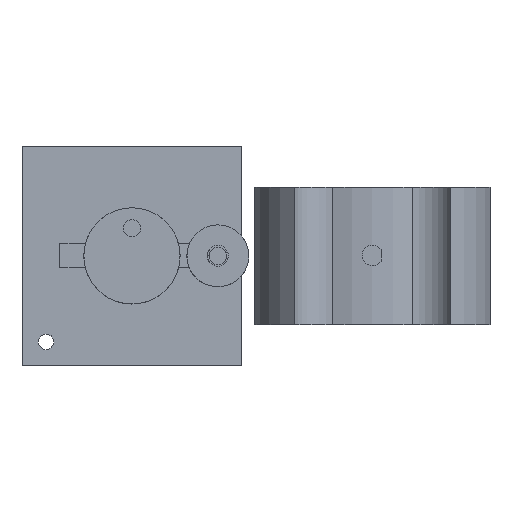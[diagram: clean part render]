
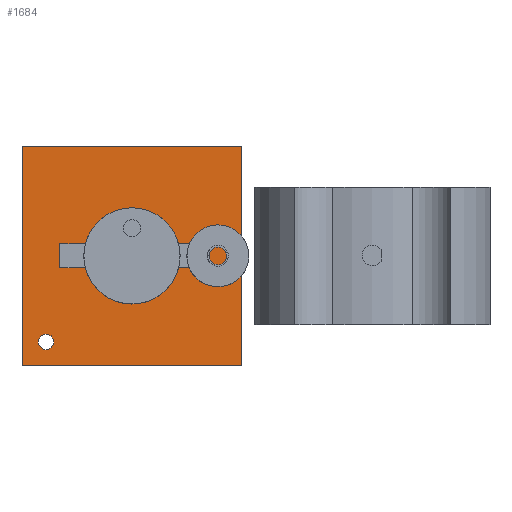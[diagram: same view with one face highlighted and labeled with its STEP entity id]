
A CAD part, top view. The second image highlights one B-rep face of the part: STEP entity #1684.
In plain terms, the highlighted planar face has unit normal (0, 0, 1).
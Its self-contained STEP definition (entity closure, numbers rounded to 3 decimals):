
#1495 = VERTEX_POINT('',#1496);
#1496 = CARTESIAN_POINT('',(-32.,-32.,3.5));
#1503 = PLANE('',#1504);
#1504 = AXIS2_PLACEMENT_3D('',#1505,#1506,#1507);
#1505 = CARTESIAN_POINT('',(-32.,-32.,-3.5));
#1506 = DIRECTION('',(1.,0.,0.));
#1507 = DIRECTION('',(0.,0.,1.));
#1515 = PLANE('',#1516);
#1516 = AXIS2_PLACEMENT_3D('',#1517,#1518,#1519);
#1517 = CARTESIAN_POINT('',(-32.,-32.,-3.5));
#1518 = DIRECTION('',(0.,1.,0.));
#1519 = DIRECTION('',(0.,0.,1.));
#1556 = VERTEX_POINT('',#1557);
#1557 = CARTESIAN_POINT('',(-32.,32.,3.5));
#1571 = PLANE('',#1572);
#1572 = AXIS2_PLACEMENT_3D('',#1573,#1574,#1575);
#1573 = CARTESIAN_POINT('',(-32.,32.,-3.5));
#1574 = DIRECTION('',(0.,1.,0.));
#1575 = DIRECTION('',(0.,0.,1.));
#1583 = EDGE_CURVE('',#1495,#1556,#1584,.T.);
#1584 = SURFACE_CURVE('',#1585,(#1589,#1596),.PCURVE_S1.);
#1585 = LINE('',#1586,#1587);
#1586 = CARTESIAN_POINT('',(-32.,-32.,3.5));
#1587 = VECTOR('',#1588,1.);
#1588 = DIRECTION('',(0.,1.,0.));
#1589 = PCURVE('',#1503,#1590);
#1590 = DEFINITIONAL_REPRESENTATION('',(#1591),#1595);
#1591 = LINE('',#1592,#1593);
#1592 = CARTESIAN_POINT('',(7.,0.));
#1593 = VECTOR('',#1594,1.);
#1594 = DIRECTION('',(0.,-1.));
#1595 = ( GEOMETRIC_REPRESENTATION_CONTEXT(2) 
PARAMETRIC_REPRESENTATION_CONTEXT() REPRESENTATION_CONTEXT('2D SPACE',''
  ) );
#1596 = PCURVE('',#1597,#1602);
#1597 = PLANE('',#1598);
#1598 = AXIS2_PLACEMENT_3D('',#1599,#1600,#1601);
#1599 = CARTESIAN_POINT('',(-32.,-32.,3.5));
#1600 = DIRECTION('',(0.,0.,1.));
#1601 = DIRECTION('',(1.,0.,0.));
#1602 = DEFINITIONAL_REPRESENTATION('',(#1603),#1607);
#1603 = LINE('',#1604,#1605);
#1604 = CARTESIAN_POINT('',(0.,0.));
#1605 = VECTOR('',#1606,1.);
#1606 = DIRECTION('',(0.,1.));
#1607 = ( GEOMETRIC_REPRESENTATION_CONTEXT(2) 
PARAMETRIC_REPRESENTATION_CONTEXT() REPRESENTATION_CONTEXT('2D SPACE',''
  ) );
#1636 = EDGE_CURVE('',#1495,#1637,#1639,.T.);
#1637 = VERTEX_POINT('',#1638);
#1638 = CARTESIAN_POINT('',(32.,-32.,3.5));
#1639 = SURFACE_CURVE('',#1640,(#1644,#1651),.PCURVE_S1.);
#1640 = LINE('',#1641,#1642);
#1641 = CARTESIAN_POINT('',(-32.,-32.,3.5));
#1642 = VECTOR('',#1643,1.);
#1643 = DIRECTION('',(1.,0.,0.));
#1644 = PCURVE('',#1515,#1645);
#1645 = DEFINITIONAL_REPRESENTATION('',(#1646),#1650);
#1646 = LINE('',#1647,#1648);
#1647 = CARTESIAN_POINT('',(7.,0.));
#1648 = VECTOR('',#1649,1.);
#1649 = DIRECTION('',(0.,1.));
#1650 = ( GEOMETRIC_REPRESENTATION_CONTEXT(2) 
PARAMETRIC_REPRESENTATION_CONTEXT() REPRESENTATION_CONTEXT('2D SPACE',''
  ) );
#1651 = PCURVE('',#1597,#1652);
#1652 = DEFINITIONAL_REPRESENTATION('',(#1653),#1657);
#1653 = LINE('',#1654,#1655);
#1654 = CARTESIAN_POINT('',(0.,0.));
#1655 = VECTOR('',#1656,1.);
#1656 = DIRECTION('',(1.,0.));
#1657 = ( GEOMETRIC_REPRESENTATION_CONTEXT(2) 
PARAMETRIC_REPRESENTATION_CONTEXT() REPRESENTATION_CONTEXT('2D SPACE',''
  ) );
#1673 = PLANE('',#1674);
#1674 = AXIS2_PLACEMENT_3D('',#1675,#1676,#1677);
#1675 = CARTESIAN_POINT('',(32.,-32.,-3.5));
#1676 = DIRECTION('',(1.,0.,0.));
#1677 = DIRECTION('',(0.,0.,1.));
#1684 = ADVANCED_FACE('',(#1685,#1733,#1768,#1803),#1597,.T.);
#1685 = FACE_BOUND('',#1686,.T.);
#1686 = EDGE_LOOP('',(#1687,#1688,#1689,#1712));
#1687 = ORIENTED_EDGE('',*,*,#1583,.F.);
#1688 = ORIENTED_EDGE('',*,*,#1636,.T.);
#1689 = ORIENTED_EDGE('',*,*,#1690,.T.);
#1690 = EDGE_CURVE('',#1637,#1691,#1693,.T.);
#1691 = VERTEX_POINT('',#1692);
#1692 = CARTESIAN_POINT('',(32.,32.,3.5));
#1693 = SURFACE_CURVE('',#1694,(#1698,#1705),.PCURVE_S1.);
#1694 = LINE('',#1695,#1696);
#1695 = CARTESIAN_POINT('',(32.,-32.,3.5));
#1696 = VECTOR('',#1697,1.);
#1697 = DIRECTION('',(0.,1.,0.));
#1698 = PCURVE('',#1597,#1699);
#1699 = DEFINITIONAL_REPRESENTATION('',(#1700),#1704);
#1700 = LINE('',#1701,#1702);
#1701 = CARTESIAN_POINT('',(64.,0.));
#1702 = VECTOR('',#1703,1.);
#1703 = DIRECTION('',(0.,1.));
#1704 = ( GEOMETRIC_REPRESENTATION_CONTEXT(2) 
PARAMETRIC_REPRESENTATION_CONTEXT() REPRESENTATION_CONTEXT('2D SPACE',''
  ) );
#1705 = PCURVE('',#1673,#1706);
#1706 = DEFINITIONAL_REPRESENTATION('',(#1707),#1711);
#1707 = LINE('',#1708,#1709);
#1708 = CARTESIAN_POINT('',(7.,0.));
#1709 = VECTOR('',#1710,1.);
#1710 = DIRECTION('',(0.,-1.));
#1711 = ( GEOMETRIC_REPRESENTATION_CONTEXT(2) 
PARAMETRIC_REPRESENTATION_CONTEXT() REPRESENTATION_CONTEXT('2D SPACE',''
  ) );
#1712 = ORIENTED_EDGE('',*,*,#1713,.F.);
#1713 = EDGE_CURVE('',#1556,#1691,#1714,.T.);
#1714 = SURFACE_CURVE('',#1715,(#1719,#1726),.PCURVE_S1.);
#1715 = LINE('',#1716,#1717);
#1716 = CARTESIAN_POINT('',(-32.,32.,3.5));
#1717 = VECTOR('',#1718,1.);
#1718 = DIRECTION('',(1.,0.,0.));
#1719 = PCURVE('',#1597,#1720);
#1720 = DEFINITIONAL_REPRESENTATION('',(#1721),#1725);
#1721 = LINE('',#1722,#1723);
#1722 = CARTESIAN_POINT('',(0.,64.));
#1723 = VECTOR('',#1724,1.);
#1724 = DIRECTION('',(1.,0.));
#1725 = ( GEOMETRIC_REPRESENTATION_CONTEXT(2) 
PARAMETRIC_REPRESENTATION_CONTEXT() REPRESENTATION_CONTEXT('2D SPACE',''
  ) );
#1726 = PCURVE('',#1571,#1727);
#1727 = DEFINITIONAL_REPRESENTATION('',(#1728),#1732);
#1728 = LINE('',#1729,#1730);
#1729 = CARTESIAN_POINT('',(7.,0.));
#1730 = VECTOR('',#1731,1.);
#1731 = DIRECTION('',(0.,1.));
#1732 = ( GEOMETRIC_REPRESENTATION_CONTEXT(2) 
PARAMETRIC_REPRESENTATION_CONTEXT() REPRESENTATION_CONTEXT('2D SPACE',''
  ) );
#1733 = FACE_BOUND('',#1734,.T.);
#1734 = EDGE_LOOP('',(#1735));
#1735 = ORIENTED_EDGE('',*,*,#1736,.T.);
#1736 = EDGE_CURVE('',#1737,#1737,#1739,.T.);
#1737 = VERTEX_POINT('',#1738);
#1738 = CARTESIAN_POINT('',(-27.25,-25.,3.5));
#1739 = SURFACE_CURVE('',#1740,(#1745,#1756),.PCURVE_S1.);
#1740 = CIRCLE('',#1741,2.25);
#1741 = AXIS2_PLACEMENT_3D('',#1742,#1743,#1744);
#1742 = CARTESIAN_POINT('',(-25.,-25.,3.5));
#1743 = DIRECTION('',(0.,0.,-1.));
#1744 = DIRECTION('',(-1.,0.,0.));
#1745 = PCURVE('',#1597,#1746);
#1746 = DEFINITIONAL_REPRESENTATION('',(#1747),#1755);
#1747 = ( BOUNDED_CURVE() B_SPLINE_CURVE(2,(#1748,#1749,#1750,#1751,
#1752,#1753,#1754),.UNSPECIFIED.,.T.,.F.) B_SPLINE_CURVE_WITH_KNOTS((1,2
    ,2,2,2,1),(-2.094,0.,2.094,4.189,
6.283,8.378),.UNSPECIFIED.) CURVE() 
GEOMETRIC_REPRESENTATION_ITEM() RATIONAL_B_SPLINE_CURVE((1.,0.5,1.,0.5,
1.,0.5,1.)) REPRESENTATION_ITEM('') );
#1748 = CARTESIAN_POINT('',(4.75,7.));
#1749 = CARTESIAN_POINT('',(4.75,10.897));
#1750 = CARTESIAN_POINT('',(8.125,8.949));
#1751 = CARTESIAN_POINT('',(11.5,7.));
#1752 = CARTESIAN_POINT('',(8.125,5.051));
#1753 = CARTESIAN_POINT('',(4.75,3.103));
#1754 = CARTESIAN_POINT('',(4.75,7.));
#1755 = ( GEOMETRIC_REPRESENTATION_CONTEXT(2) 
PARAMETRIC_REPRESENTATION_CONTEXT() REPRESENTATION_CONTEXT('2D SPACE',''
  ) );
#1756 = PCURVE('',#1757,#1762);
#1757 = CYLINDRICAL_SURFACE('',#1758,2.25);
#1758 = AXIS2_PLACEMENT_3D('',#1759,#1760,#1761);
#1759 = CARTESIAN_POINT('',(-25.,-25.,3.5));
#1760 = DIRECTION('',(0.,0.,-1.));
#1761 = DIRECTION('',(-1.,0.,0.));
#1762 = DEFINITIONAL_REPRESENTATION('',(#1763),#1767);
#1763 = LINE('',#1764,#1765);
#1764 = CARTESIAN_POINT('',(0.,0.));
#1765 = VECTOR('',#1766,1.);
#1766 = DIRECTION('',(1.,0.));
#1767 = ( GEOMETRIC_REPRESENTATION_CONTEXT(2) 
PARAMETRIC_REPRESENTATION_CONTEXT() REPRESENTATION_CONTEXT('2D SPACE',''
  ) );
#1768 = FACE_BOUND('',#1769,.T.);
#1769 = EDGE_LOOP('',(#1770));
#1770 = ORIENTED_EDGE('',*,*,#1771,.T.);
#1771 = EDGE_CURVE('',#1772,#1772,#1774,.T.);
#1772 = VERTEX_POINT('',#1773);
#1773 = CARTESIAN_POINT('',(-19.6,0.,3.5));
#1774 = SURFACE_CURVE('',#1775,(#1780,#1791),.PCURVE_S1.);
#1775 = CIRCLE('',#1776,2.1);
#1776 = AXIS2_PLACEMENT_3D('',#1777,#1778,#1779);
#1777 = CARTESIAN_POINT('',(-17.5,0.,3.5));
#1778 = DIRECTION('',(0.,0.,-1.));
#1779 = DIRECTION('',(-1.,0.,0.));
#1780 = PCURVE('',#1597,#1781);
#1781 = DEFINITIONAL_REPRESENTATION('',(#1782),#1790);
#1782 = ( BOUNDED_CURVE() B_SPLINE_CURVE(2,(#1783,#1784,#1785,#1786,
#1787,#1788,#1789),.UNSPECIFIED.,.T.,.F.) B_SPLINE_CURVE_WITH_KNOTS((1,2
    ,2,2,2,1),(-2.094,0.,2.094,4.189,
6.283,8.378),.UNSPECIFIED.) CURVE() 
GEOMETRIC_REPRESENTATION_ITEM() RATIONAL_B_SPLINE_CURVE((1.,0.5,1.,0.5,
1.,0.5,1.)) REPRESENTATION_ITEM('') );
#1783 = CARTESIAN_POINT('',(12.4,32.));
#1784 = CARTESIAN_POINT('',(12.4,35.637));
#1785 = CARTESIAN_POINT('',(15.55,33.819));
#1786 = CARTESIAN_POINT('',(18.7,32.));
#1787 = CARTESIAN_POINT('',(15.55,30.181));
#1788 = CARTESIAN_POINT('',(12.4,28.363));
#1789 = CARTESIAN_POINT('',(12.4,32.));
#1790 = ( GEOMETRIC_REPRESENTATION_CONTEXT(2) 
PARAMETRIC_REPRESENTATION_CONTEXT() REPRESENTATION_CONTEXT('2D SPACE',''
  ) );
#1791 = PCURVE('',#1792,#1797);
#1792 = CYLINDRICAL_SURFACE('',#1793,2.1);
#1793 = AXIS2_PLACEMENT_3D('',#1794,#1795,#1796);
#1794 = CARTESIAN_POINT('',(-17.5,0.,3.5));
#1795 = DIRECTION('',(0.,0.,-1.));
#1796 = DIRECTION('',(-1.,0.,0.));
#1797 = DEFINITIONAL_REPRESENTATION('',(#1798),#1802);
#1798 = LINE('',#1799,#1800);
#1799 = CARTESIAN_POINT('',(0.,0.));
#1800 = VECTOR('',#1801,1.);
#1801 = DIRECTION('',(1.,0.));
#1802 = ( GEOMETRIC_REPRESENTATION_CONTEXT(2) 
PARAMETRIC_REPRESENTATION_CONTEXT() REPRESENTATION_CONTEXT('2D SPACE',''
  ) );
#1803 = FACE_BOUND('',#1804,.T.);
#1804 = EDGE_LOOP('',(#1805));
#1805 = ORIENTED_EDGE('',*,*,#1806,.T.);
#1806 = EDGE_CURVE('',#1807,#1807,#1809,.T.);
#1807 = VERTEX_POINT('',#1808);
#1808 = CARTESIAN_POINT('',(-9.,0.,3.5));
#1809 = SURFACE_CURVE('',#1810,(#1815,#1826),.PCURVE_S1.);
#1810 = CIRCLE('',#1811,9.);
#1811 = AXIS2_PLACEMENT_3D('',#1812,#1813,#1814);
#1812 = CARTESIAN_POINT('',(0.,0.,3.5));
#1813 = DIRECTION('',(0.,0.,-1.));
#1814 = DIRECTION('',(-1.,0.,0.));
#1815 = PCURVE('',#1597,#1816);
#1816 = DEFINITIONAL_REPRESENTATION('',(#1817),#1825);
#1817 = ( BOUNDED_CURVE() B_SPLINE_CURVE(2,(#1818,#1819,#1820,#1821,
#1822,#1823,#1824),.UNSPECIFIED.,.T.,.F.) B_SPLINE_CURVE_WITH_KNOTS((1,2
    ,2,2,2,1),(-2.094,0.,2.094,4.189,
6.283,8.378),.UNSPECIFIED.) CURVE() 
GEOMETRIC_REPRESENTATION_ITEM() RATIONAL_B_SPLINE_CURVE((1.,0.5,1.,0.5,
1.,0.5,1.)) REPRESENTATION_ITEM('') );
#1818 = CARTESIAN_POINT('',(23.,32.));
#1819 = CARTESIAN_POINT('',(23.,47.588));
#1820 = CARTESIAN_POINT('',(36.5,39.794));
#1821 = CARTESIAN_POINT('',(50.,32.));
#1822 = CARTESIAN_POINT('',(36.5,24.206));
#1823 = CARTESIAN_POINT('',(23.,16.412));
#1824 = CARTESIAN_POINT('',(23.,32.));
#1825 = ( GEOMETRIC_REPRESENTATION_CONTEXT(2) 
PARAMETRIC_REPRESENTATION_CONTEXT() REPRESENTATION_CONTEXT('2D SPACE',''
  ) );
#1826 = PCURVE('',#1827,#1832);
#1827 = CYLINDRICAL_SURFACE('',#1828,9.);
#1828 = AXIS2_PLACEMENT_3D('',#1829,#1830,#1831);
#1829 = CARTESIAN_POINT('',(0.,0.,3.5));
#1830 = DIRECTION('',(0.,0.,-1.));
#1831 = DIRECTION('',(-1.,0.,0.));
#1832 = DEFINITIONAL_REPRESENTATION('',(#1833),#1837);
#1833 = LINE('',#1834,#1835);
#1834 = CARTESIAN_POINT('',(0.,0.));
#1835 = VECTOR('',#1836,1.);
#1836 = DIRECTION('',(1.,0.));
#1837 = ( GEOMETRIC_REPRESENTATION_CONTEXT(2) 
PARAMETRIC_REPRESENTATION_CONTEXT() REPRESENTATION_CONTEXT('2D SPACE',''
  ) );
